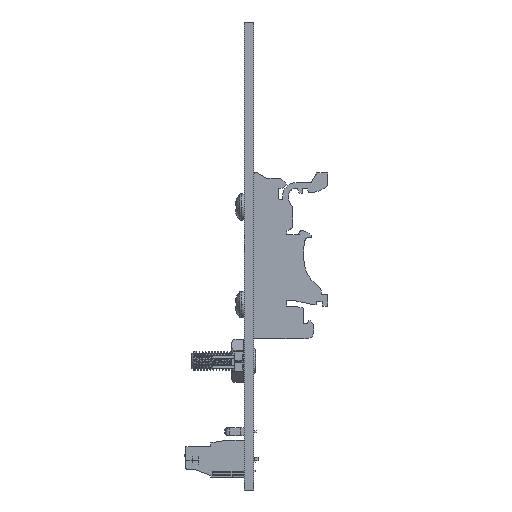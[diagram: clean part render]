
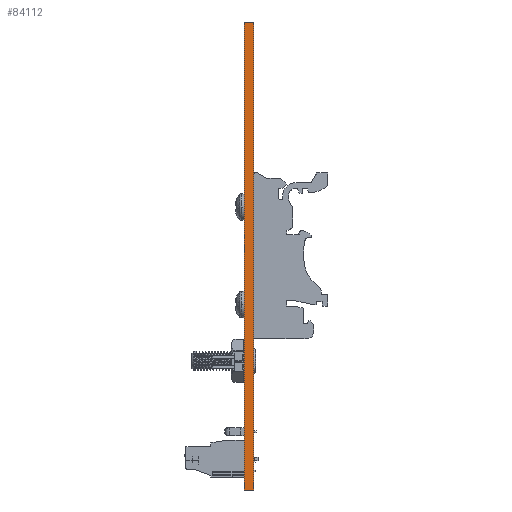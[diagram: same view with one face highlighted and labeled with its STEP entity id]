
A CAD part, left-side view. The second image highlights one B-rep face of the part: STEP entity #84112.
In plain terms, the highlighted planar face has unit normal (-1, 0, 0).
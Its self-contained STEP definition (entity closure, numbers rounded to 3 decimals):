
#5181 = LINE ( 'NONE', #143571, #151380 ) ;
#15726 = LINE ( 'NONE', #68116, #86554 ) ;
#17930 = ORIENTED_EDGE ( 'NONE', *, *, #51257, .T. ) ;
#19040 = DIRECTION ( 'NONE',  ( 0., -1., 0. ) ) ;
#22095 = CARTESIAN_POINT ( 'NONE',  ( -107.505, 1.181, -60.071 ) ) ;
#23839 = CARTESIAN_POINT ( 'NONE',  ( -107.505, -1.181, -60.071 ) ) ;
#26502 = CARTESIAN_POINT ( 'NONE',  ( -107.505, 1.181, 60.071 ) ) ;
#31117 = VERTEX_POINT ( 'NONE', #23839 ) ;
#31645 = VECTOR ( 'NONE', #79013, 1000. ) ;
#36145 = LINE ( 'NONE', #22095, #31645 ) ;
#40769 = DIRECTION ( 'NONE',  ( 0., 0., -1. ) ) ;
#45345 = VERTEX_POINT ( 'NONE', #146086 ) ;
#48522 = EDGE_CURVE ( 'NONE', #101528, #83789, #15726, .T. ) ;
#51257 = EDGE_CURVE ( 'NONE', #31117, #45345, #5181, .T. ) ;
#54948 = ORIENTED_EDGE ( 'NONE', *, *, #171988, .F. ) ;
#67064 = ORIENTED_EDGE ( 'NONE', *, *, #48522, .F. ) ;
#67355 = EDGE_LOOP ( 'NONE', ( #17930, #54948, #67064, #144534 ) ) ;
#68116 = CARTESIAN_POINT ( 'NONE',  ( -107.505, 1.181, 60.071 ) ) ;
#75118 = CARTESIAN_POINT ( 'NONE',  ( -107.505, 1.181, -60.071 ) ) ;
#79013 = DIRECTION ( 'NONE',  ( 0., -1., 0. ) ) ;
#82370 = DIRECTION ( 'NONE',  ( 0., 0., 1. ) ) ;
#83789 = VERTEX_POINT ( 'NONE', #155337 ) ;
#84112 = ADVANCED_FACE ( 'NONE', ( #175370 ), #124864, .F. ) ;
#86554 = VECTOR ( 'NONE', #82370, 1000. ) ;
#87288 = DIRECTION ( 'NONE',  ( 0., 0., 1. ) ) ;
#101528 = VERTEX_POINT ( 'NONE', #75118 ) ;
#103695 = CARTESIAN_POINT ( 'NONE',  ( -107.505, 1.181, 60.071 ) ) ;
#124864 = PLANE ( 'NONE',  #142459 ) ;
#125496 = DIRECTION ( 'NONE',  ( 1., 0., 0. ) ) ;
#131630 = VECTOR ( 'NONE', #19040, 1000. ) ;
#142459 = AXIS2_PLACEMENT_3D ( 'NONE', #26502, #125496, #40769 ) ;
#143571 = CARTESIAN_POINT ( 'NONE',  ( -107.505, -1.181, 60.071 ) ) ;
#144534 = ORIENTED_EDGE ( 'NONE', *, *, #175790, .T. ) ;
#146086 = CARTESIAN_POINT ( 'NONE',  ( -107.505, -1.181, 60.071 ) ) ;
#151380 = VECTOR ( 'NONE', #87288, 1000. ) ;
#155337 = CARTESIAN_POINT ( 'NONE',  ( -107.505, 1.181, 60.071 ) ) ;
#171988 = EDGE_CURVE ( 'NONE', #83789, #45345, #173646, .T. ) ;
#173646 = LINE ( 'NONE', #103695, #131630 ) ;
#175370 = FACE_OUTER_BOUND ( 'NONE', #67355, .T. ) ;
#175790 = EDGE_CURVE ( 'NONE', #101528, #31117, #36145, .T. ) ;
